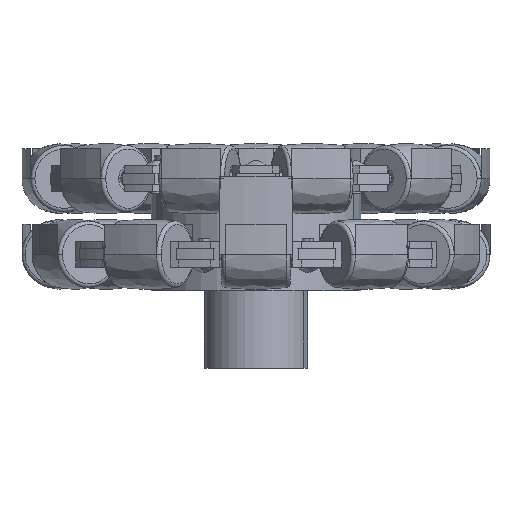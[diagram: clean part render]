
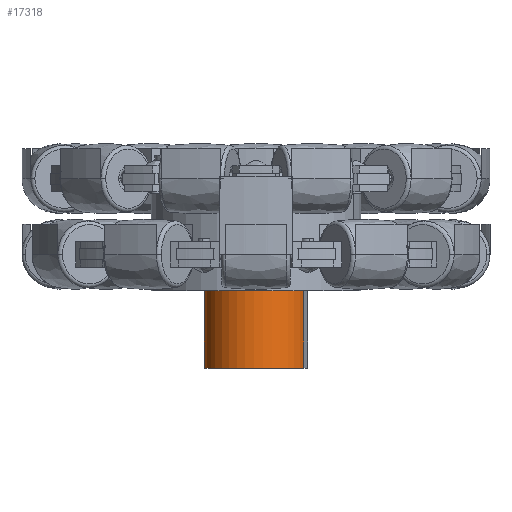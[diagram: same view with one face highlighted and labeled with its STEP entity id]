
A CAD part, front view. The second image highlights one B-rep face of the part: STEP entity #17318.
In plain terms, the highlighted cylindrical face has radius 14 mm (diameter 28 mm), a partial arc.
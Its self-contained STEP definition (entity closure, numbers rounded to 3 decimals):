
#16964=DIRECTION('',(0.,0.,-1.));
#16965=VECTOR('',#16964,21.);
#16966=CARTESIAN_POINT('',(14.,0.,-8.4));
#16967=LINE('',#16966,#16965);
#16968=DIRECTION('',(0.,0.,-1.));
#16969=VECTOR('',#16968,21.);
#16970=CARTESIAN_POINT('',(-14.,0.,-8.4));
#16971=LINE('',#16970,#16969);
#16972=CARTESIAN_POINT('',(0.,0.,-8.4));
#16973=DIRECTION('',(0.,0.,-1.));
#16974=DIRECTION('',(1.,0.,0.));
#16975=AXIS2_PLACEMENT_3D('',#16972,#16973,#16974);
#16977=CARTESIAN_POINT('',(0.,0.,-29.4));
#16978=DIRECTION('',(0.,0.,-1.));
#16979=DIRECTION('',(1.,0.,0.));
#16980=AXIS2_PLACEMENT_3D('',#16977,#16978,#16979);
#17077=CARTESIAN_POINT('',(14.,0.,-8.4));
#17078=CARTESIAN_POINT('',(14.,0.,-29.4));
#17079=VERTEX_POINT('',#17077);
#17080=VERTEX_POINT('',#17078);
#17085=CARTESIAN_POINT('',(-14.,0.,-8.4));
#17086=CARTESIAN_POINT('',(-14.,0.,-29.4));
#17087=VERTEX_POINT('',#17085);
#17088=VERTEX_POINT('',#17086);
#17306=CARTESIAN_POINT('',(0.,0.,-30.87));
#17307=DIRECTION('',(0.,0.,1.));
#17308=DIRECTION('',(-1.,0.,0.));
#17309=AXIS2_PLACEMENT_3D('',#17306,#17307,#17308);
#17310=CYLINDRICAL_SURFACE('',#17309,14.);
#17311=ORIENTED_EDGE('',*,*,#17296,.T.);
#17313=ORIENTED_EDGE('',*,*,#17312,.T.);
#17314=ORIENTED_EDGE('',*,*,#17299,.F.);
#17315=ORIENTED_EDGE('',*,*,#17250,.F.);
#17316=EDGE_LOOP('',(#17311,#17313,#17314,#17315));
#17317=FACE_OUTER_BOUND('',#17316,.F.);
#16976=CIRCLE('',#16975,14.);
#16981=CIRCLE('',#16980,14.);
#17250=EDGE_CURVE('',#17079,#17087,#16976,.T.);
#17296=EDGE_CURVE('',#17079,#17080,#16967,.T.);
#17299=EDGE_CURVE('',#17087,#17088,#16971,.T.);
#17312=EDGE_CURVE('',#17080,#17088,#16981,.T.);
#17318=ADVANCED_FACE('',(#17317),#17310,.T.);
